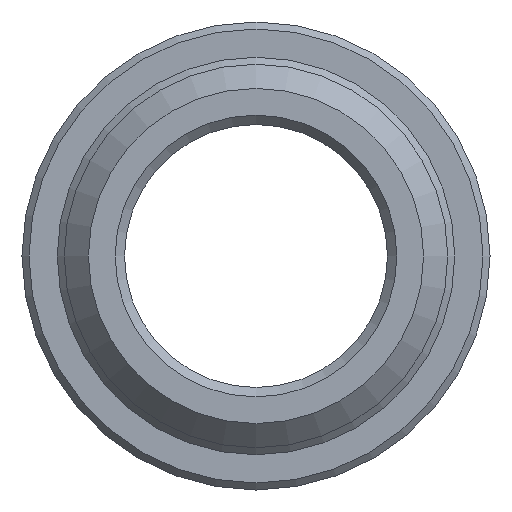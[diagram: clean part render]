
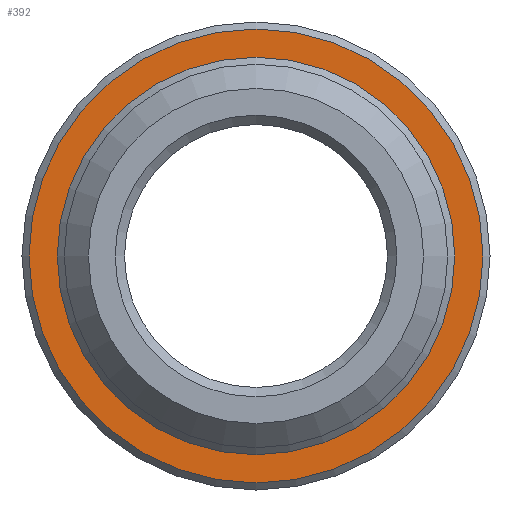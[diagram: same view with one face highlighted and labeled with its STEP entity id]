
A CAD part, front view. The second image highlights one B-rep face of the part: STEP entity #392.
In plain terms, the highlighted planar face has unit normal (0, -1, 0).
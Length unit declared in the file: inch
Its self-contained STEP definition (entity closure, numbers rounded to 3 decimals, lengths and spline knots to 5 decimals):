
#33=FACE_BOUND('',#86,.T.);
#44=PLANE('',#443);
#60=FACE_OUTER_BOUND('',#85,.T.);
#85=EDGE_LOOP('',(#316));
#86=EDGE_LOOP('',(#317));
#158=CIRCLE('',#442,0.4247);
#159=CIRCLE('',#444,0.485);
#195=VERTEX_POINT('',#678);
#196=VERTEX_POINT('',#682);
#243=EDGE_CURVE('',#195,#195,#158,.T.);
#244=EDGE_CURVE('',#196,#196,#159,.T.);
#316=ORIENTED_EDGE('',*,*,#244,.F.);
#317=ORIENTED_EDGE('',*,*,#243,.F.);
#392=ADVANCED_FACE('',(#60,#33),#44,.T.);
#442=AXIS2_PLACEMENT_3D('',#680,#536,#537);
#443=AXIS2_PLACEMENT_3D('',#681,#538,#539);
#444=AXIS2_PLACEMENT_3D('',#683,#540,#541);
#536=DIRECTION('center_axis',(0.,-1.,0.));
#537=DIRECTION('ref_axis',(0.,0.,-1.));
#538=DIRECTION('center_axis',(0.,-1.,0.));
#539=DIRECTION('ref_axis',(0.,0.,-1.));
#540=DIRECTION('center_axis',(0.,1.,0.));
#541=DIRECTION('ref_axis',(0.,0.,1.));
#678=CARTESIAN_POINT('',(0.,10.,0.4247));
#680=CARTESIAN_POINT('Origin',(0.,10.,0.));
#681=CARTESIAN_POINT('Origin',(0.,10.,-0.42));
#682=CARTESIAN_POINT('',(0.,10.,-0.485));
#683=CARTESIAN_POINT('Origin',(0.,10.,0.));
